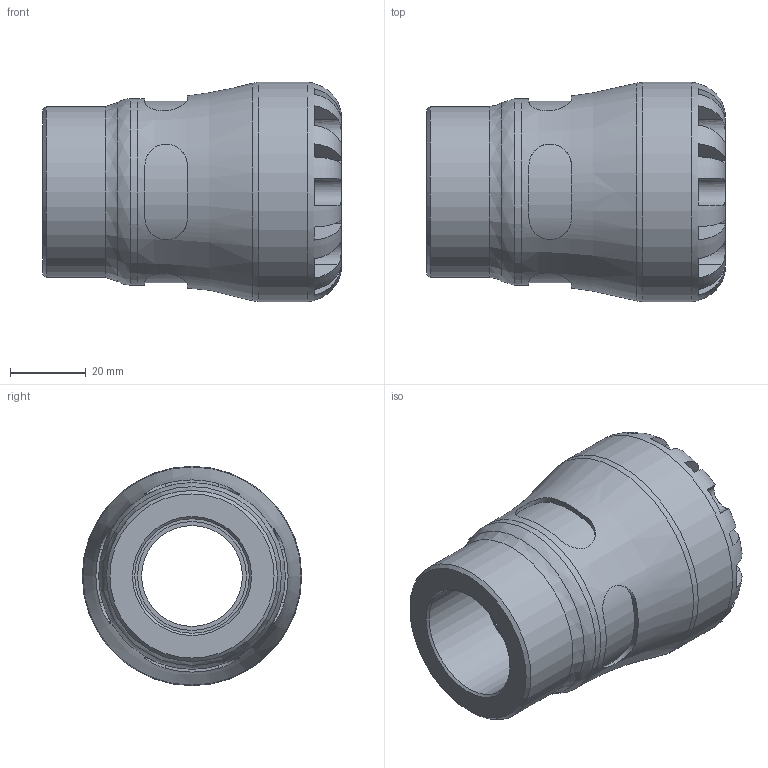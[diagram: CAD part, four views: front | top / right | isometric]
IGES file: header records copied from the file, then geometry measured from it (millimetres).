
Global section: file name: 100300032010_190300032010.ipt; native system: Autodesk Inventor 2015; preprocessor: unknown; author: KIM; date: 20170122.094946; units: millimetre
Bounding box: 79 x 58 x 58 mm (x, y, z)
Volume: 100434.3 mm3; surface area: 24822.7 mm2
Topology: 1 solids, 1 shells, 104 faces, 270 edges, 174 vertices
Faces by surface type: plane 61, revolution 27, cylinder 15, cone 1
Full cylindrical faces by diameter (mm): 45.24 x1, 49.3 x1, 58 x1
